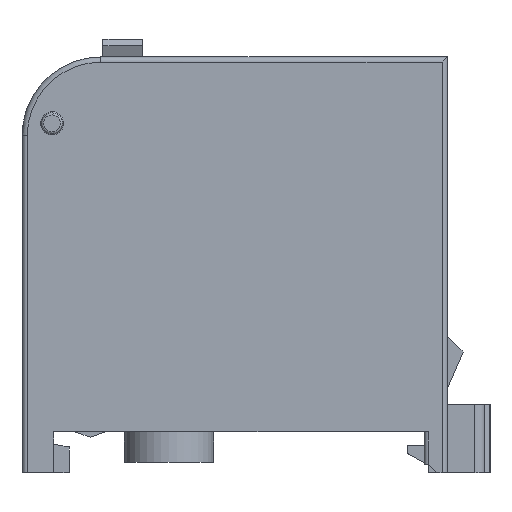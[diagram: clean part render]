
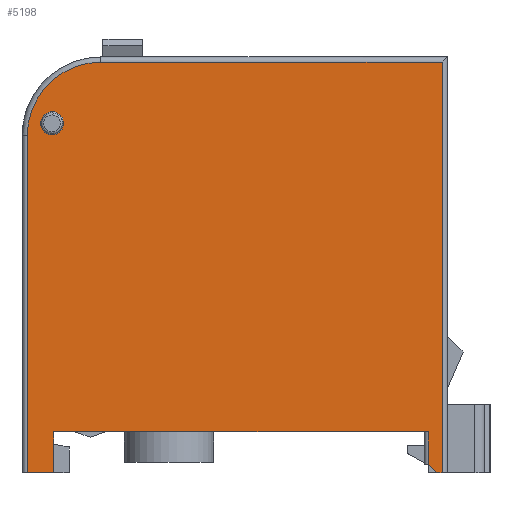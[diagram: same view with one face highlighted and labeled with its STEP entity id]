
A CAD part, left-side view. The second image highlights one B-rep face of the part: STEP entity #5198.
In plain terms, the highlighted planar face has unit normal (-1, 0, 0).
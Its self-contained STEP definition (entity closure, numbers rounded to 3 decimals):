
#4625=PLANE('',#16803);
#5040=FACE_BOUND('',#6581,.T.);
#5041=FACE_BOUND('',#6582,.T.);
#5198=ADVANCED_FACE('',(#5040,#5041),#4625,.T.);
#6581=EDGE_LOOP('',(#8070,#8071,#8072,#8073,#8074,#8075,#8076,#8077,#8078,
#8079));
#6582=EDGE_LOOP('',(#8080));
#7227=CIRCLE('',#16801,7.);
#7228=CIRCLE('',#16802,1.1);
#8070=ORIENTED_EDGE('',*,*,#12596,.F.);
#8071=ORIENTED_EDGE('',*,*,#12086,.F.);
#8072=ORIENTED_EDGE('',*,*,#12597,.F.);
#8073=ORIENTED_EDGE('',*,*,#12598,.F.);
#8074=ORIENTED_EDGE('',*,*,#12599,.T.);
#8075=ORIENTED_EDGE('',*,*,#12600,.F.);
#8076=ORIENTED_EDGE('',*,*,#12601,.T.);
#8077=ORIENTED_EDGE('',*,*,#12602,.T.);
#8078=ORIENTED_EDGE('',*,*,#12603,.T.);
#8079=ORIENTED_EDGE('',*,*,#12604,.T.);
#8080=ORIENTED_EDGE('',*,*,#12605,.T.);
#10948=VERTEX_POINT('',#20857);
#10949=VERTEX_POINT('',#20858);
#11381=VERTEX_POINT('',#21920);
#11382=VERTEX_POINT('',#21922);
#11383=VERTEX_POINT('',#21924);
#11384=VERTEX_POINT('',#21926);
#11385=VERTEX_POINT('',#21928);
#11386=VERTEX_POINT('',#21930);
#11387=VERTEX_POINT('',#21932);
#11388=VERTEX_POINT('',#21934);
#11389=VERTEX_POINT('',#21937);
#12086=EDGE_CURVE('',#10948,#10949,#13826,.T.);
#12596=EDGE_CURVE('',#10949,#11381,#14295,.T.);
#12597=EDGE_CURVE('',#11382,#10948,#7227,.T.);
#12598=EDGE_CURVE('',#11383,#11382,#14296,.T.);
#12599=EDGE_CURVE('',#11383,#11384,#14297,.T.);
#12600=EDGE_CURVE('',#11385,#11384,#14298,.T.);
#12601=EDGE_CURVE('',#11385,#11386,#14299,.T.);
#12602=EDGE_CURVE('',#11386,#11387,#14300,.T.);
#12603=EDGE_CURVE('',#11387,#11388,#14301,.T.);
#12604=EDGE_CURVE('',#11388,#11381,#14302,.T.);
#12605=EDGE_CURVE('',#11389,#11389,#7228,.T.);
#13826=LINE('',#20856,#15254);
#14295=LINE('',#21919,#15723);
#14296=LINE('',#21923,#15724);
#14297=LINE('',#21925,#15725);
#14298=LINE('',#21927,#15726);
#14299=LINE('',#21929,#15727);
#14300=LINE('',#21931,#15728);
#14301=LINE('',#21933,#15729);
#14302=LINE('',#21935,#15730);
#15254=VECTOR('',#17599,1.);
#15723=VECTOR('',#18304,1.);
#15724=VECTOR('',#18307,1.);
#15725=VECTOR('',#18308,1.);
#15726=VECTOR('',#18309,1.);
#15727=VECTOR('',#18310,1.);
#15728=VECTOR('',#18311,1.);
#15729=VECTOR('',#18312,1.);
#15730=VECTOR('',#18313,1.);
#16801=AXIS2_PLACEMENT_3D('',#21921,#18305,#18306);
#16802=AXIS2_PLACEMENT_3D('',#21936,#18314,#18315);
#16803=AXIS2_PLACEMENT_3D('',#21938,#18316,#18317);
#17599=DIRECTION('',(0.,-1.,0.));
#18304=DIRECTION('',(0.,0.,-1.));
#18305=DIRECTION('',(1.,0.,0.));
#18306=DIRECTION('',(0.,0.707,0.707));
#18307=DIRECTION('',(0.,0.,1.));
#18308=DIRECTION('',(0.,-1.,0.));
#18309=DIRECTION('',(0.,0.,-1.));
#18310=DIRECTION('',(0.,-1.,0.));
#18311=DIRECTION('',(0.,0.,-1.));
#18312=DIRECTION('',(0.,-0.707,-0.707));
#18313=DIRECTION('',(0.,-1.,0.));
#18314=DIRECTION('',(1.,0.,0.));
#18315=DIRECTION('',(0.,1.,0.));
#18316=DIRECTION('',(-1.,0.,0.));
#18317=DIRECTION('',(0.,1.,0.));
#20856=CARTESIAN_POINT('',(-80.,12.75,12.3));
#20857=CARTESIAN_POINT('',(-80.,12.75,12.3));
#20858=CARTESIAN_POINT('',(-80.,-19.75,12.3));
#21919=CARTESIAN_POINT('',(-80.,-19.75,10.05));
#21920=CARTESIAN_POINT('',(-80.,-19.75,-26.8));
#21921=CARTESIAN_POINT('',(-80.,12.75,5.3));
#21922=CARTESIAN_POINT('',(-80.,19.75,5.3));
#21923=CARTESIAN_POINT('',(-80.,19.75,-12.8));
#21924=CARTESIAN_POINT('',(-80.,19.75,-26.8));
#21925=CARTESIAN_POINT('',(-80.,19.75,-26.8));
#21926=CARTESIAN_POINT('',(-80.,17.25,-26.8));
#21927=CARTESIAN_POINT('',(-80.,17.25,-22.9));
#21928=CARTESIAN_POINT('',(-80.,17.25,-22.9));
#21929=CARTESIAN_POINT('',(-80.,17.25,-22.9));
#21930=CARTESIAN_POINT('',(-80.,-18.45,-22.9));
#21931=CARTESIAN_POINT('',(-80.,-18.45,-22.9));
#21932=CARTESIAN_POINT('',(-80.,-18.45,-26.));
#21933=CARTESIAN_POINT('',(-80.,-18.45,-26.));
#21934=CARTESIAN_POINT('',(-80.,-19.25,-26.8));
#21935=CARTESIAN_POINT('',(-80.,-19.25,-26.8));
#21936=CARTESIAN_POINT('',(-80.,17.387,6.477));
#21937=CARTESIAN_POINT('',(-80.,16.287,6.477));
#21938=CARTESIAN_POINT('',(-80.,-0.546,-0.36));
